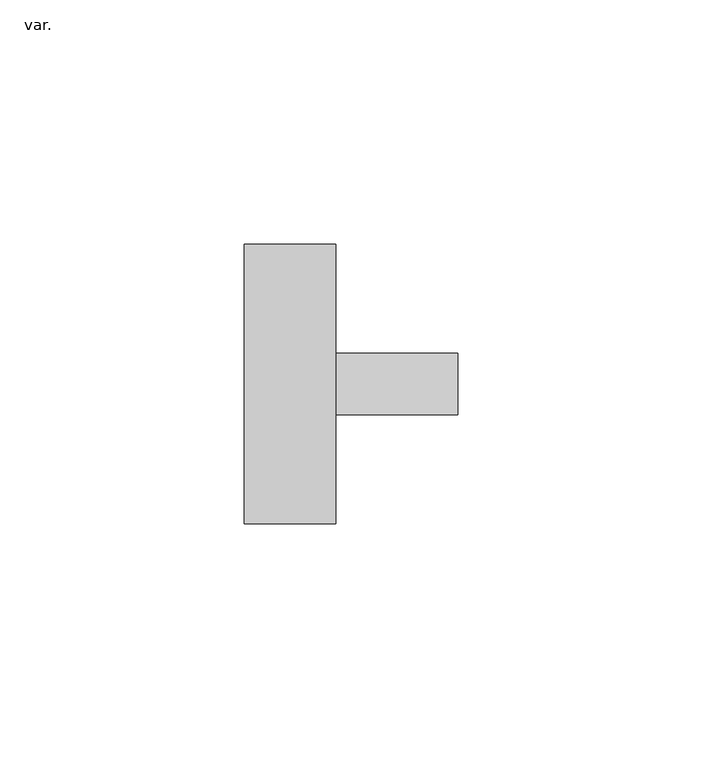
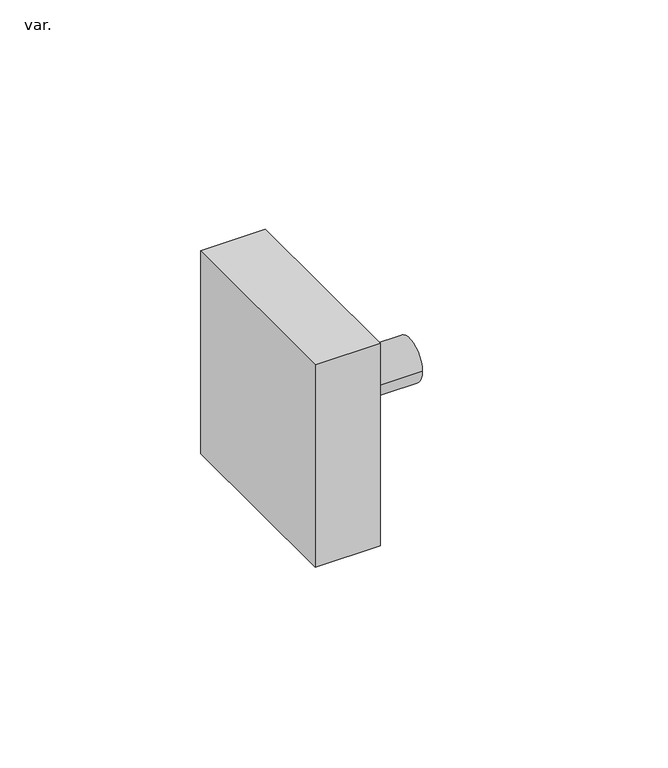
"""IFC4 building model written with IfcOpenShell, lengths in millimetres: pipe fitting geometry, Z_Wavin_Tappevann Plastic Cap for Dranaige Kit (nested) : var.."""

from ifc_helpers import new_model, si_unit, point, frame, origin, origin_2d, place, context, project, spatial, polyline, circle_curve, trimmed, segment, composite_curve, outline, extrude, source, transform, mapped, element, save


def var_5fb657c0(model_context):
    return source(origin(), model_context, "Body", "SweptSolid", [
        extrude(outline(polyline([(-18.7, -28.6), (-18.7, 28.6), (0.0, 28.6), (0.0, -28.6), (-18.7, -28.6)])), frame((0.0, 0.0, -30.85), z_axis=(0.0, 0.0, 1.0), x_axis=(1.0, 0.0, 0.0)), (0.0, 0.0, 1.0), 61.7),
        extrude(outline(composite_curve([segment(trimmed(circle_curve(origin_2d(), 6.3), [point((-6.3, 0.0))], [point((6.3, 0.0))], False, "CARTESIAN"), True, "CONTINUOUS"), segment(trimmed(circle_curve(origin_2d(), 6.3), [point((6.3, 0.0))], [point((-6.3, 0.0))], False, "CARTESIAN"), True, "CONTINUOUS")], self_intersect=False)), frame((0.0, 0.0, 0.0), z_axis=(1.0, 0.0, 0.0), x_axis=(0.0, 1.0, 0.0)), (0.0, 0.0, 1.0), 25.0),
    ])


if __name__ == "__main__":
    model = new_model("IFC4")
    model_context = context("Model", 3, world=origin())
    ifc_project = project(units=[si_unit("LENGTHUNIT", "METRE", prefix="MILLI")], contexts=[model_context])
    site = spatial("IfcSite", under=ifc_project)
    building = spatial("IfcBuilding", under=site)
    placement = place(None, origin())
    var_shape = var_5fb657c0(model_context)
    element("IfcPipeFitting", 1, ObjectType="Z_Wavin_Tappevann Plastic Cap for Dranaige Kit (nested) : var.", at=placement, inside=building, context=model_context, shape_type="MappedRepresentation", body=[
        mapped(var_shape, transform((0.0, 0.0, 0.0), x_axis=(1.0, 0.0, 0.0), y_axis=(0.0, 1.0, 0.0), z_axis=(0.0, 0.0, 1.0))),
    ])
    save(model, "model.ifc")
